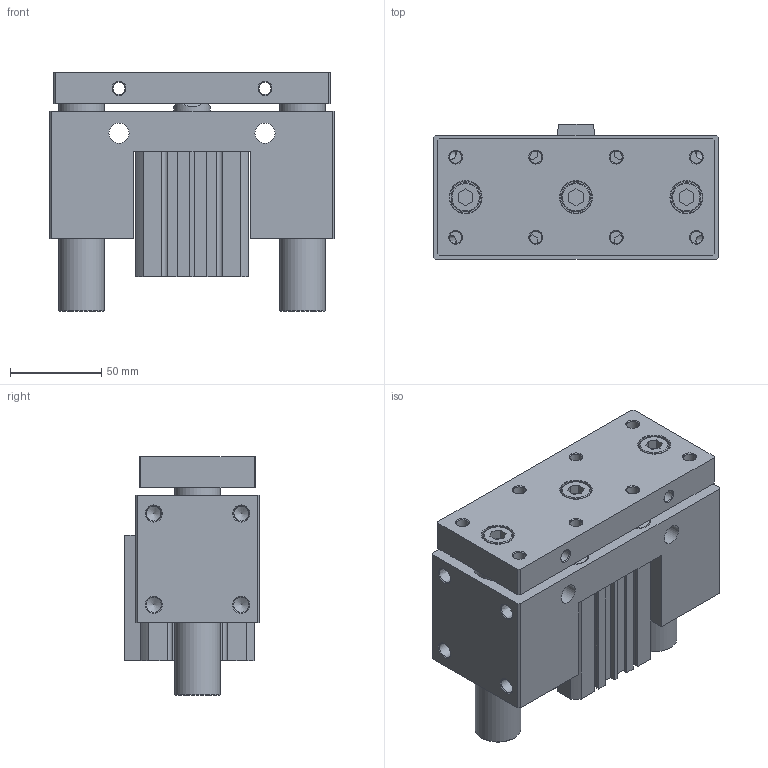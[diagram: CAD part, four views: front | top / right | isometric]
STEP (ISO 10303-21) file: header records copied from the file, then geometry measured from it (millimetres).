
FILE_DESCRIPTION((''),'2;1');
FILE_NAME('I:\3D電子目錄\氣缸\JCB\JCB\JCB50\JCB50x40.stp','2007-08-30T15:54:46',('Administrator'),(''),'Autodesk Inventor 11','Autodesk Inventor 11','');
FILE_SCHEMA(('AUTOMOTIVE_DESIGN { 1 0 10303 214 1 1 1 1 }'));
Length unit declared in the file: millimetre
Products named in the file (1): JCB50
Bounding box: 156 x 74 x 130.5 mm (x, y, z)
Volume: 917601.8 mm3; surface area: 169036.8 mm2
Topology: 3 solids, 3 shells, 328 faces, 786 edges, 510 vertices
Faces by surface type: plane 190, cylinder 58, cone 45, bspline 31, torus 4
Full cylindrical faces by diameter (mm): 2.7 x2, 6.8 x4, 8.376 x4, 11 x8, 13 x4, 14 x4, 16 x3, 17.5 x3, 20 x1, 21 x1, 25 x2, 28 x2, 37 x1, 38 x1, 52 x4, 55 x2
Entity records: 9390 total; most frequent: CARTESIAN_POINT 2294, DIRECTION 1434, ORIENTED_EDGE 1264, EDGE_CURVE 632, EDGE_LOOP 536, AXIS2_PLACEMENT_3D 512, VERTEX_POINT 480, VECTOR 410
